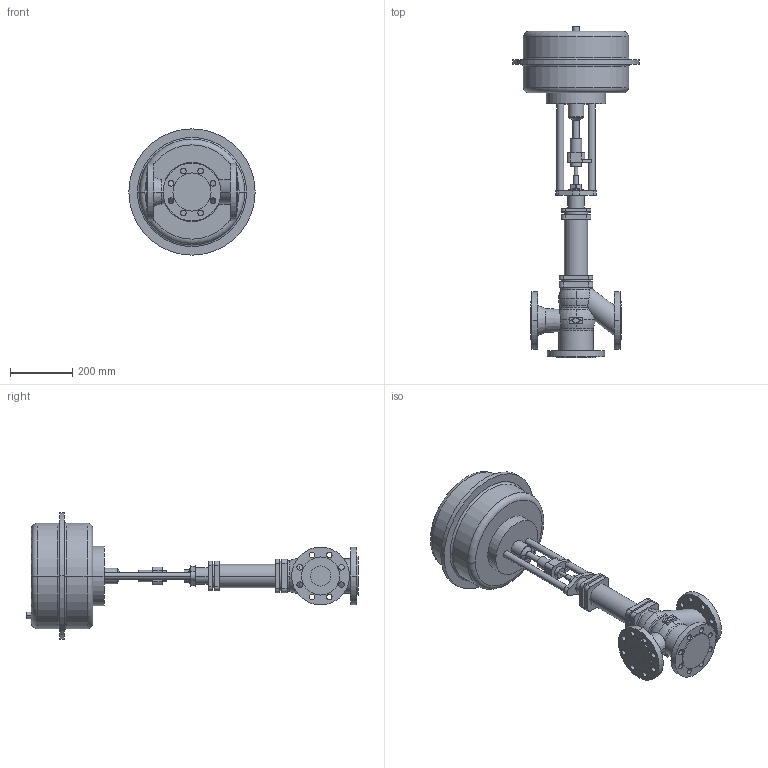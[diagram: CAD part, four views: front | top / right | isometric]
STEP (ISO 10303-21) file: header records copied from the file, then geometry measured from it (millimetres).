
FILE_DESCRIPTION(('OneSpaceDesigner STEP Export'),'2;1');
FILE_NAME('c000000738.stp','2006-09-21T 8:39:33',(''),(''),'OneSpace Designer STEP processor for AP214 (Solid Model)','OneSpace Designer 13.20A 18-Aug-2005 (C) CoCreate Software GmbH','');
FILE_SCHEMA(('AUTOMOTIVE_DESIGN { 1 0 10303 214 1 1 1 1 }'));
Length unit declared in the file: millimetre
Products named in the file (2): 1; 2
Bounding box: 405 x 1064 x 405 mm (x, y, z)
Volume: 25556806.9 mm3; surface area: 969406.2 mm2
Topology: 2 solids, 2 shells, 268 faces, 677 edges, 447 vertices
Faces by surface type: cylinder 138, plane 96, torus 28, cone 6
Entity records: 7362 total; most frequent: CARTESIAN_POINT 1365, ORIENTED_EDGE 1354, DIRECTION 1094, EDGE_CURVE 677, VERTEX_POINT 447, AXIS2_PLACEMENT_3D 398, EDGE_LOOP 350, VECTOR 298
